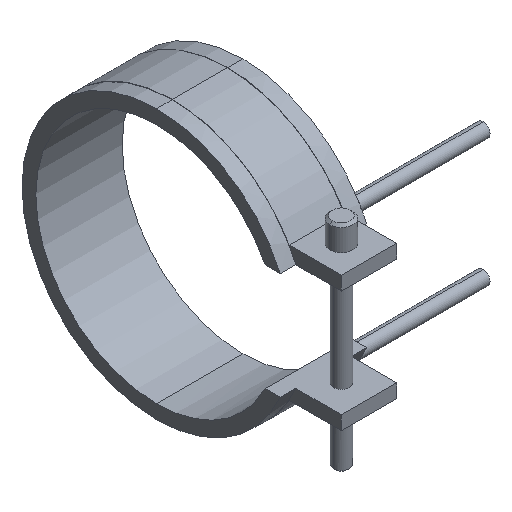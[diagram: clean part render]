
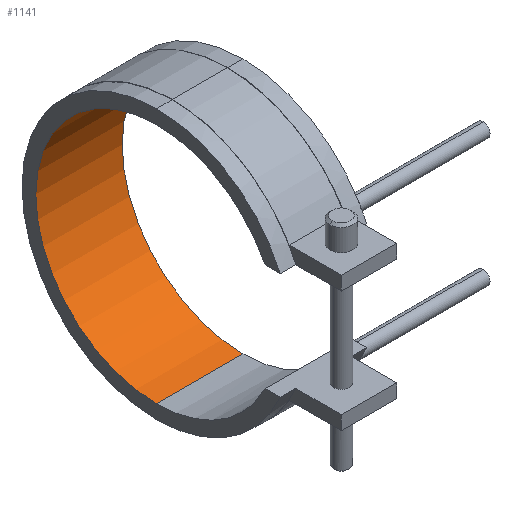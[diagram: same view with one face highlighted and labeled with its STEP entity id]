
A CAD part, isometric view. The second image highlights one B-rep face of the part: STEP entity #1141.
In plain terms, the highlighted cylindrical face has radius 35 mm (diameter 70 mm), a partial arc.
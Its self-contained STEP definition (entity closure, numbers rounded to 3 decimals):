
#822=CARTESIAN_POINT('Vertex',(-12.5,0.,-35.)) ;
#829=CARTESIAN_POINT('Vertex',(12.5,0.,-35.)) ;
#832=CARTESIAN_POINT('Line Origine',(12.5,0.,-35.)) ;
#850=CARTESIAN_POINT('Axis2P3D Location',(-12.5,0.,0.)) ;
#854=CARTESIAN_POINT('Vertex',(-12.5,0.,35.)) ;
#911=CARTESIAN_POINT('Vertex',(12.5,0.,35.)) ;
#921=CARTESIAN_POINT('Line Origine',(12.5,0.,35.)) ;
#1012=CARTESIAN_POINT('Axis2P3D Location',(12.5,0.,0.)) ;
#1130=CARTESIAN_POINT('Axis2P3D Location',(12.5,0.,0.)) ;
#833=DIRECTION('Vector Direction',(1.,0.,0.)) ;
#851=DIRECTION('Axis2P3D Direction',(1.,0.,0.)) ;
#922=DIRECTION('Vector Direction',(1.,0.,0.)) ;
#1013=DIRECTION('Axis2P3D Direction',(1.,0.,0.)) ;
#1131=DIRECTION('Axis2P3D Direction',(1.,0.,-0.)) ;
#1132=DIRECTION('Axis2P3D XDirection',(0.,0.,-1.)) ;
#852=AXIS2_PLACEMENT_3D('Circle Axis2P3D',#850,#851,$) ;
#1014=AXIS2_PLACEMENT_3D('Circle Axis2P3D',#1012,#1013,$) ;
#1133=AXIS2_PLACEMENT_3D('Cylinder Axis2P3D',#1130,#1131,#1132) ;
#1136=ORIENTED_EDGE('',*,*,#1016,.T.) ;
#1137=ORIENTED_EDGE('',*,*,#925,.T.) ;
#1138=ORIENTED_EDGE('',*,*,#856,.F.) ;
#1139=ORIENTED_EDGE('',*,*,#836,.T.) ;
#834=VECTOR('Line Direction',#833,1.) ;
#923=VECTOR('Line Direction',#922,1.) ;
#1141=ADVANCED_FACE('14070025',(#1140),#1134,.F.) ;
#853=CIRCLE('generated circle',#852,35.) ;
#1015=CIRCLE('generated circle',#1014,35.) ;
#1134=CYLINDRICAL_SURFACE('generated cylinder',#1133,35.) ;
#836=EDGE_CURVE('',#823,#830,#835,.T.) ;
#856=EDGE_CURVE('',#823,#855,#853,.T.) ;
#925=EDGE_CURVE('',#912,#855,#924,.F.) ;
#1016=EDGE_CURVE('',#830,#912,#1015,.T.) ;
#1135=EDGE_LOOP('',(#1136,#1137,#1138,#1139)) ;
#1140=FACE_OUTER_BOUND('',#1135,.T.) ;
#835=LINE('Line',#832,#834) ;
#924=LINE('Line',#921,#923) ;
#823=VERTEX_POINT('',#822) ;
#830=VERTEX_POINT('',#829) ;
#855=VERTEX_POINT('',#854) ;
#912=VERTEX_POINT('',#911) ;
